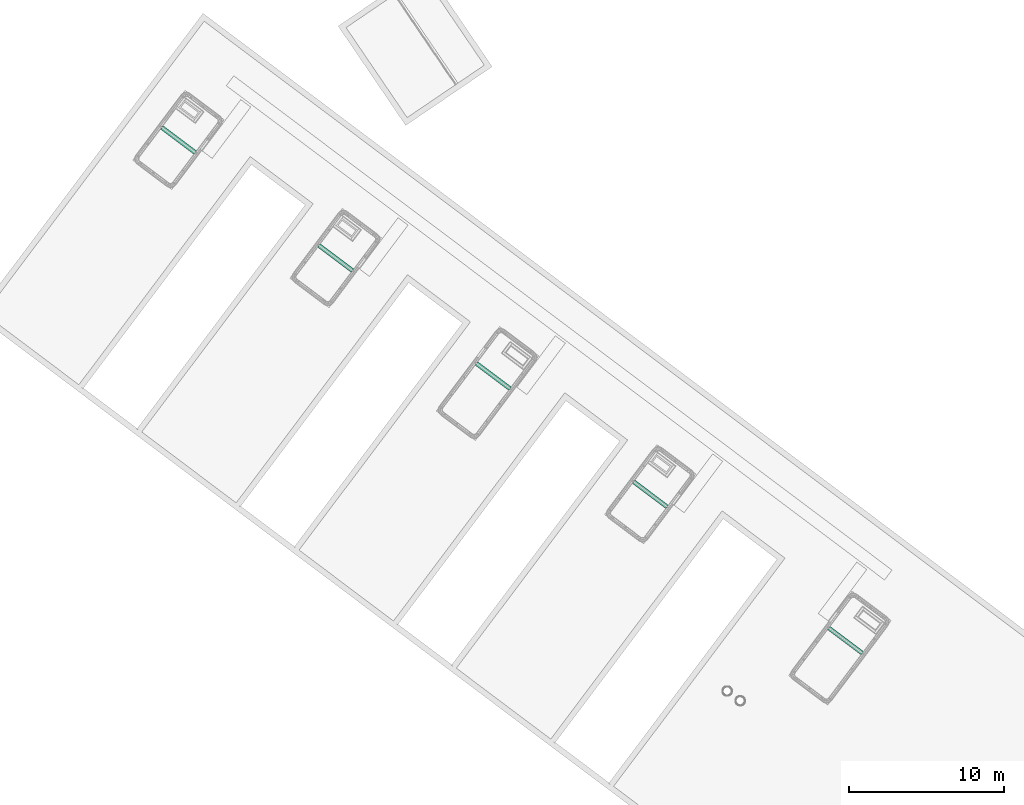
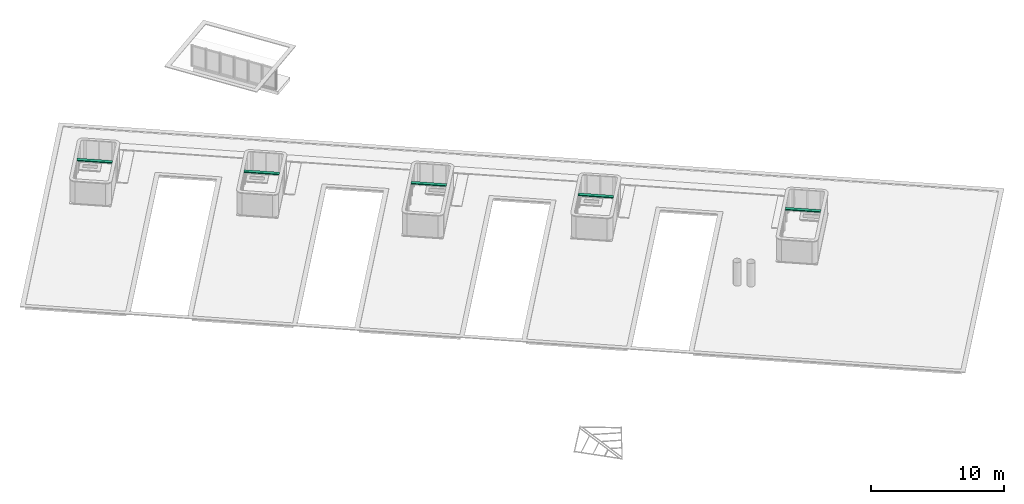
# One storey, part 23 of 28: 5 flow segments.
"""IFC2X3 building model written with IfcOpenShell, lengths in metres."""

from ifc_helpers import new_model, entity, si_unit, converted_unit, derived_unit, direction, frame, origin, place, context, subcontext, project, spatial, polyline, outline, extrude, source, transform, mapped, type_object, type_shapes, element, save


model = new_model("IFC2X3")

# Units and contexts
model_context = context("Model", 3, precision=1e-05, world=origin(), true_north=direction((6.123031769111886e-17, 1.0)))
body_context = subcontext(model_context, "Body", "Model", "MODEL_VIEW")
ifc_project = project(units=[si_unit("LENGTHUNIT", "METRE"), si_unit("AREAUNIT", "SQUARE_METRE"), si_unit("VOLUMEUNIT", "CUBIC_METRE"), converted_unit("PLANEANGLEUNIT", "DEGREE", entity("IfcRatioMeasure", 0.017453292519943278), si_unit("PLANEANGLEUNIT", "RADIAN"), dimensions=[0, 0, 0, 0, 0, 0, 0]), si_unit("MASSUNIT", "GRAM", prefix="KILO"), derived_unit("MASSDENSITYUNIT", [(si_unit("MASSUNIT", "GRAM", prefix="KILO"), 1), (si_unit("LENGTHUNIT", "METRE"), -3)]), derived_unit("IONCONCENTRATIONUNIT", [(si_unit("MASSUNIT", "GRAM", prefix="KILO"), 1), (si_unit("LENGTHUNIT", "METRE"), -3)]), derived_unit("MOMENTOFINERTIAUNIT", [(si_unit("LENGTHUNIT", "METRE"), 4)]), si_unit("TIMEUNIT", "SECOND"), si_unit("FREQUENCYUNIT", "HERTZ"), si_unit("THERMODYNAMICTEMPERATUREUNIT", "DEGREE_CELSIUS"), derived_unit("THERMALTRANSMITTANCEUNIT", [(si_unit("MASSUNIT", "GRAM", prefix="KILO"), 1), (si_unit("THERMODYNAMICTEMPERATUREUNIT", "KELVIN"), -1), (si_unit("TIMEUNIT", "SECOND"), -3)]), derived_unit("THERMALCONDUCTANCEUNIT", [(si_unit("MASSUNIT", "GRAM", prefix="KILO"), 1), (si_unit("THERMODYNAMICTEMPERATUREUNIT", "KELVIN"), -1), (si_unit("TIMEUNIT", "SECOND"), -3), (si_unit("LENGTHUNIT", "METRE"), 1)]), derived_unit("VOLUMETRICFLOWRATEUNIT", [(si_unit("LENGTHUNIT", "METRE"), 3), (si_unit("TIMEUNIT", "SECOND"), -1)]), derived_unit("MASSFLOWRATEUNIT", [(si_unit("MASSUNIT", "GRAM", prefix="KILO"), 1), (si_unit("TIMEUNIT", "SECOND"), -1)]), derived_unit("ROTATIONALFREQUENCYUNIT", [(si_unit("TIMEUNIT", "SECOND"), -1)]), si_unit("ELECTRICCURRENTUNIT", "AMPERE"), si_unit("ELECTRICVOLTAGEUNIT", "VOLT"), si_unit("POWERUNIT", "WATT"), si_unit("FORCEUNIT", "NEWTON", prefix="KILO"), si_unit("ILLUMINANCEUNIT", "LUX"), si_unit("LUMINOUSFLUXUNIT", "LUMEN"), si_unit("LUMINOUSINTENSITYUNIT", "CANDELA"), derived_unit("USERDEFINED", [(si_unit("MASSUNIT", "GRAM", prefix="KILO"), -1), (si_unit("LENGTHUNIT", "METRE"), -2), (si_unit("TIMEUNIT", "SECOND"), 3), (si_unit("LUMINOUSFLUXUNIT", "LUMEN"), 1)]), derived_unit("USERDEFINED", [(si_unit("MASSUNIT", "GRAM", prefix="KILO"), 1), (si_unit("TIMEUNIT", "SECOND"), -3), (si_unit("LENGTHUNIT", "METRE"), 3), (si_unit("ELECTRICCURRENTUNIT", "AMPERE"), -2)]), derived_unit("SOUNDPOWERUNIT", [(si_unit("MASSUNIT", "GRAM", prefix="KILO"), 1), (si_unit("TIMEUNIT", "SECOND"), -3), (si_unit("LENGTHUNIT", "METRE"), 2)]), derived_unit("SOUNDPRESSUREUNIT", [(si_unit("MASSUNIT", "GRAM", prefix="KILO"), 1), (si_unit("LENGTHUNIT", "METRE"), -1), (si_unit("TIMEUNIT", "SECOND"), -2)]), derived_unit("LINEARVELOCITYUNIT", [(si_unit("LENGTHUNIT", "METRE"), 1), (si_unit("TIMEUNIT", "SECOND"), -1)]), si_unit("PRESSUREUNIT", "PASCAL"), derived_unit("USERDEFINED", [(si_unit("MASSUNIT", "GRAM", prefix="KILO"), 1), (si_unit("LENGTHUNIT", "METRE"), -2), (si_unit("TIMEUNIT", "SECOND"), -2)]), derived_unit("LINEARFORCEUNIT", [(si_unit("MASSUNIT", "GRAM", prefix="KILO"), 1), (si_unit("TIMEUNIT", "SECOND"), -2)]), derived_unit("PLANARFORCEUNIT", [(si_unit("MASSUNIT", "GRAM", prefix="KILO"), 1), (si_unit("LENGTHUNIT", "METRE"), -1), (si_unit("TIMEUNIT", "SECOND"), -2)]), derived_unit("SPECIFICHEATCAPACITYUNIT", [(si_unit("THERMODYNAMICTEMPERATUREUNIT", "KELVIN"), -1), (si_unit("LENGTHUNIT", "METRE"), 2), (si_unit("TIMEUNIT", "SECOND"), -2)]), derived_unit("HEATINGVALUEUNIT", [(si_unit("LENGTHUNIT", "METRE"), 2), (si_unit("TIMEUNIT", "SECOND"), -2)]), derived_unit("VAPORPERMEABILITYUNIT", [(si_unit("LENGTHUNIT", "METRE"), -1), (si_unit("TIMEUNIT", "SECOND"), 1)]), derived_unit("DYNAMICVISCOSITYUNIT", [(si_unit("MASSUNIT", "GRAM", prefix="KILO"), 1), (si_unit("TIMEUNIT", "SECOND"), -1), (si_unit("LENGTHUNIT", "METRE"), -1)]), derived_unit("THERMALEXPANSIONCOEFFICIENTUNIT", [(si_unit("THERMODYNAMICTEMPERATUREUNIT", "KELVIN"), -1)]), derived_unit("MODULUSOFELASTICITYUNIT", [(si_unit("MASSUNIT", "GRAM", prefix="KILO"), 1), (si_unit("LENGTHUNIT", "METRE"), -1), (si_unit("TIMEUNIT", "SECOND"), -2)]), derived_unit("ISOTHERMALMOISTURECAPACITYUNIT", [(si_unit("LENGTHUNIT", "METRE"), 3), (si_unit("MASSUNIT", "GRAM", prefix="KILO"), -1)]), derived_unit("MOISTUREDIFFUSIVITYUNIT", [(si_unit("TIMEUNIT", "SECOND"), -1), (si_unit("LENGTHUNIT", "METRE"), 2)])], contexts=[model_context])

# Site, building, storey
site_placement = place(None, frame((0.0, 0.0, 235.0), z_axis=(0.0, 0.0, 1.0), x_axis=(-0.7996477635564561, 0.6004693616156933, 0.0)))
site = spatial("IfcSite", under=ifc_project, at=site_placement, Name="Default", CompositionType="ELEMENT")
building_placement = place(site_placement, origin())
building = spatial("IfcBuilding", under=site, at=building_placement, CompositionType="ELEMENT")
storey_placement = place(building_placement, frame((0.0, 0.0, 3.400000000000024)))
storey = spatial("IfcBuildingStorey", under=building, at=storey_placement, Name="PC- Coberta STR", CompositionType="ELEMENT", Elevation=3.400000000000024)

# Flow segments
pipe_segment_type_1 = type_object("IfcPipeSegmentType", Name="Canalón:COB- Remat xapa coberta- Mur Installacions", PredefinedType="GUTTER")
shared_shape_1 = source(origin(), body_context, "Body", "SweptSolid", [
    extrude(outline(polyline([(-0.05212618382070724, -0.13432059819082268), (0.027873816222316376, -0.13432059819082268), (0.04652879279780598, 0.1343205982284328), (0.0033333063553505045, 0.13432059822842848), (0.013333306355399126, 0.11700009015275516), (0.015065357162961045, 0.1180000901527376), (0.006797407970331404, 0.13232059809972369), (0.04440527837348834, 0.13232059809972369), (0.025971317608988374, -0.1323205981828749), (-0.04866208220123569, -0.1323205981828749), (-0.04039413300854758, -0.11800009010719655), (-0.042126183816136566, -0.11700009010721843), (-0.05212618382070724, -0.13432059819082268)])), frame((0.0, 0.13432059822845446, 0.05212618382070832), z_axis=(1.0, 0.0, 0.0), x_axis=(0.0, 0.0, 1.0)), (0.0, 0.0, 1.0), 2.687004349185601),
])
type_shapes(pipe_segment_type_1, [shared_shape_1])
flow_segment_1_placement = place(storey_placement, frame((15.939366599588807, -35.02658109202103, 2.4043827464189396)))
element("IfcFlowSegment", 1, at=flow_segment_1_placement, inside=storey, type_object=pipe_segment_type_1, Name="Canalón:COB- Remat xapa coberta- Mur Installacions", ObjectType="Canalón:COB- Remat xapa coberta- Mur Installacions", context=body_context, shape_type="MappedRepresentation", body=[
    mapped(shared_shape_1, transform((0.0, 0.0, 0.0), scale=1.0)),
])
pipe_segment_type_2 = type_object("IfcPipeSegmentType", Name="Canalón:COB- Remat xapa coberta- Mur Installacions", PredefinedType="GUTTER")
shared_shape_2 = source(origin(), body_context, "Body", "SweptSolid", [
    extrude(outline(polyline([(-0.05212618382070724, -0.13432059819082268), (0.027873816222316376, -0.13432059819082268), (0.04652879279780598, 0.1343205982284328), (0.0033333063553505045, 0.13432059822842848), (0.013333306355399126, 0.11700009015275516), (0.015065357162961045, 0.1180000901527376), (0.006797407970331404, 0.13232059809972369), (0.04440527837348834, 0.13232059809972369), (0.025971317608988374, -0.1323205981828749), (-0.04866208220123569, -0.1323205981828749), (-0.04039413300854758, -0.11800009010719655), (-0.042126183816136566, -0.11700009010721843), (-0.05212618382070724, -0.13432059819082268)])), frame((0.0, 0.13432059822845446, 0.05212618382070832), z_axis=(1.0, 0.0, 0.0), x_axis=(0.0, 0.0, 1.0)), (0.0, 0.0, 1.0), 2.6870043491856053),
])
type_shapes(pipe_segment_type_2, [shared_shape_2])
flow_segment_2_placement = place(storey_placement, frame((31.689505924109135, -35.01251225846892, 2.4043827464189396)))
element("IfcFlowSegment", 2, at=flow_segment_2_placement, inside=storey, type_object=pipe_segment_type_2, Name="Canalón:COB- Remat xapa coberta- Mur Installacions", ObjectType="Canalón:COB- Remat xapa coberta- Mur Installacions", context=body_context, shape_type="MappedRepresentation", body=[
    mapped(shared_shape_2, transform((0.0, 0.0, 0.0), scale=1.0)),
])
pipe_segment_type_3 = type_object("IfcPipeSegmentType", Name="Canalón:COB- Remat xapa coberta- Mur Installacions", PredefinedType="GUTTER")
shared_shape_3 = source(origin(), body_context, "Body", "SweptSolid", [
    extrude(outline(polyline([(-0.05212618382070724, -0.13432059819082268), (0.027873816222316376, -0.13432059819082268), (0.04652879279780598, 0.1343205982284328), (0.0033333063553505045, 0.13432059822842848), (0.013333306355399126, 0.11700009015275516), (0.015065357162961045, 0.1180000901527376), (0.006797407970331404, 0.13232059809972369), (0.04440527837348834, 0.13232059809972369), (0.025971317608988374, -0.1323205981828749), (-0.04866208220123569, -0.1323205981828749), (-0.04039413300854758, -0.11800009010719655), (-0.042126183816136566, -0.11700009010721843), (-0.05212618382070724, -0.13432059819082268)])), frame((0.0, 0.13432059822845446, 0.05212618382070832), z_axis=(1.0, 0.0, 0.0), x_axis=(0.0, 0.0, 1.0)), (0.0, 0.0, 1.0), 2.6870043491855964),
])
type_shapes(pipe_segment_type_3, [shared_shape_3])
flow_segment_3_placement = place(storey_placement, frame((57.08950592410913, -35.012512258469, 2.4043827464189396)))
element("IfcFlowSegment", 3, at=flow_segment_3_placement, inside=storey, type_object=pipe_segment_type_3, Name="Canalón:COB- Remat xapa coberta- Mur Installacions", ObjectType="Canalón:COB- Remat xapa coberta- Mur Installacions", context=body_context, shape_type="MappedRepresentation", body=[
    mapped(shared_shape_3, transform((0.0, 0.0, 0.0), scale=1.0)),
])
pipe_segment_type_4 = type_object("IfcPipeSegmentType", Name="Canalón:COB- Remat xapa coberta- Mur Installacions", PredefinedType="GUTTER")
shared_shape_4 = source(origin(), body_context, "Body", "SweptSolid", [
    extrude(outline(polyline([(-0.05212618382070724, -0.13432059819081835), (0.027873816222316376, -0.13432059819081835), (0.04652879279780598, 0.13432059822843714), (0.0033333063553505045, 0.1343205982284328), (0.013333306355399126, 0.11700009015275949), (0.015065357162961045, 0.11800009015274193), (0.006797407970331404, 0.13232059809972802), (0.04440527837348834, 0.13232059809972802), (0.025971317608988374, -0.13232059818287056), (-0.04866208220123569, -0.13232059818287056), (-0.04039413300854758, -0.11800009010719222), (-0.042126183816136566, -0.1170000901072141), (-0.05212618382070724, -0.13432059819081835)])), frame((0.0, 0.13432059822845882, 0.05212618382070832), z_axis=(1.0, 0.0, 0.0), x_axis=(0.0, 0.0, 1.0)), (0.0, 0.0, 1.0), 2.6870043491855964),
])
type_shapes(pipe_segment_type_4, [shared_shape_4])
flow_segment_4_placement = place(storey_placement, frame((69.78950592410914, -35.012512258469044, 2.4043827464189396)))
element("IfcFlowSegment", 4, at=flow_segment_4_placement, inside=storey, type_object=pipe_segment_type_4, Name="Canalón:COB- Remat xapa coberta- Mur Installacions", ObjectType="Canalón:COB- Remat xapa coberta- Mur Installacions", context=body_context, shape_type="MappedRepresentation", body=[
    mapped(shared_shape_4, transform((0.0, 0.0, 0.0), scale=1.0)),
])
pipe_segment_type_5 = type_object("IfcPipeSegmentType", Name="Canalón:COB- Remat xapa coberta- Mur Installacions", PredefinedType="GUTTER")
shared_shape_5 = source(origin(), body_context, "Body", "SweptSolid", [
    extrude(outline(polyline([(-0.05212618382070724, -0.13432059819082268), (0.027873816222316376, -0.13432059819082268), (0.04652879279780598, 0.1343205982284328), (0.0033333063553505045, 0.13432059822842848), (0.013333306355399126, 0.11700009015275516), (0.015065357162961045, 0.1180000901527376), (0.006797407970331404, 0.13232059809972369), (0.04440527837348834, 0.13232059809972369), (0.025971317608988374, -0.1323205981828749), (-0.04866208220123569, -0.1323205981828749), (-0.04039413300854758, -0.11800009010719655), (-0.042126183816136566, -0.11700009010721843), (-0.05212618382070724, -0.13432059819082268)])), frame((0.0, 0.1343205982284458, 0.05212618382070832), z_axis=(1.0, 0.0, 0.0), x_axis=(0.0, 0.0, 1.0)), (0.0, 0.0, 1.0), 2.6870043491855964),
])
type_shapes(pipe_segment_type_5, [shared_shape_5])
flow_segment_5_placement = place(storey_placement, frame((44.389366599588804, -35.02658109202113, 2.4043827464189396)))
element("IfcFlowSegment", 5, at=flow_segment_5_placement, inside=storey, type_object=pipe_segment_type_5, Name="Canalón:COB- Remat xapa coberta- Mur Installacions", ObjectType="Canalón:COB- Remat xapa coberta- Mur Installacions", context=body_context, shape_type="MappedRepresentation", body=[
    mapped(shared_shape_5, transform((0.0, 0.0, 0.0), scale=1.0)),
])

save(model, "model.ifc")
